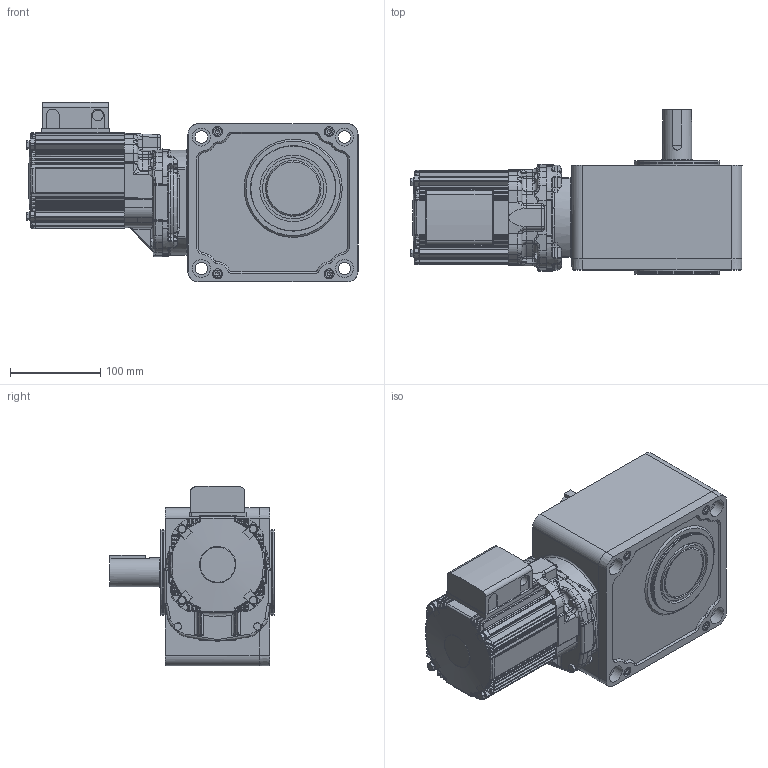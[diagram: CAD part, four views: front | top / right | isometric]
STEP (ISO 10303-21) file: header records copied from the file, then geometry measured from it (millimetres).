
FILE_DESCRIPTION( ( 'Unknown' ), '1' );
FILE_NAME( 'W:/gm/3D-WEB/GM-SHY/完成品/パーツ/完成品/三相/shyfrl_01_300-900.stp', 'Unknown', ( 'Unknown' ), ( 'Unknown' ), 'PSStep 11.0', 'Unknown', ' ' );
FILE_SCHEMA( ( 'AUTOMOTIVE_DESIGN { 1 0 10303 214 1 1 1 1 }' ) );
Length unit declared in the file: millimetre
Products named in the file (2): P265320_衛偯枆參(0.1,0.2kW 63Fr)
Bounding box: 368.8 x 183 x 199.88 mm (x, y, z)
Volume: 5316488.8 mm3; surface area: 440472.7 mm2
Topology: 2 solids, 26 shells, 1810 faces, 4516 edges, 2774 vertices
Faces by surface type: plane 728, cylinder 536, torus 209, bspline 192, cone 142, sphere 3
Full cylindrical faces by diameter (mm): 3.3 x4, 4.134 x12, 4.5 x4, 4.8 x4, 5 x12, 5.5 x8, 6 x2, 6.6 x4, 6.647 x1, 8.2 x1, 8.5 x4, 11 x4, 12 x2, 14 x4, 15 x1, 16 x1, 20 x8, 30 x1, 32 x1, 34 x1, 34.1 x1, 40 x1, 48 x1, 50 x1, 54 x1, 55.8 x1, 62 x4, 68 x2, 74 x2, 75 x1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
Entity records: 105179 total; most frequent: CARTESIAN_POINT 49339, DIRECTION 8764, ORIENTED_EDGE 8524, EDGE_CURVE 4262, AXIS2_PLACEMENT_3D 3554, VERTEX_POINT 2717, EDGE_LOOP 2044, FACE_OUTER_BOUND 1925
